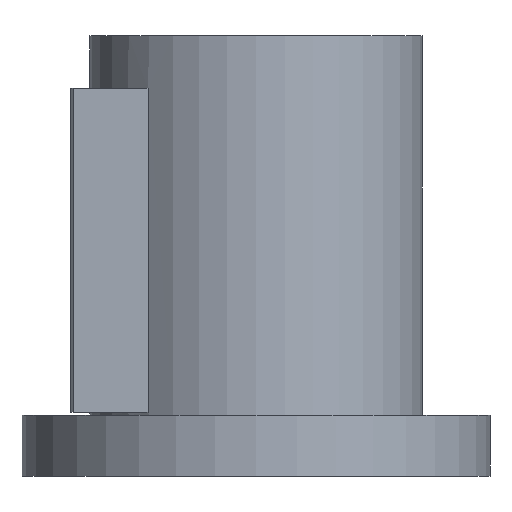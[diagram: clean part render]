
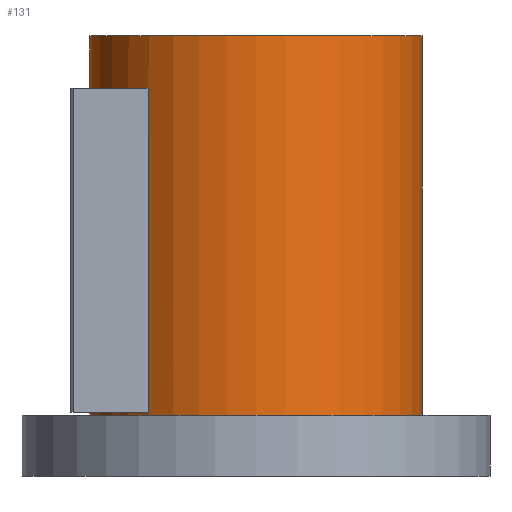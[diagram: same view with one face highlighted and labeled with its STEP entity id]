
A CAD part, front view. The second image highlights one B-rep face of the part: STEP entity #131.
In plain terms, the highlighted cylindrical face has radius 60 mm (diameter 120 mm), a full revolution.
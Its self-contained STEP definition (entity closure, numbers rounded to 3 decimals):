
#131=ADVANCED_FACE('',(#218,#219,#220),#161,.T.);
#161=CYLINDRICAL_SURFACE('',#550,60.);
#174=LINE('',#752,#196);
#175=LINE('',#756,#197);
#196=VECTOR('',#612,1.);
#197=VECTOR('',#615,1.);
#218=FACE_BOUND('',#263,.T.);
#219=FACE_BOUND('',#264,.T.);
#220=FACE_BOUND('',#265,.T.);
#263=EDGE_LOOP('',(#325));
#264=EDGE_LOOP('',(#326));
#265=EDGE_LOOP('',(#327,#328,#329,#330));
#325=ORIENTED_EDGE('',*,*,#467,.F.);
#326=ORIENTED_EDGE('',*,*,#468,.T.);
#327=ORIENTED_EDGE('',*,*,#469,.F.);
#328=ORIENTED_EDGE('',*,*,#470,.F.);
#329=ORIENTED_EDGE('',*,*,#471,.T.);
#330=ORIENTED_EDGE('',*,*,#472,.F.);
#425=VERTEX_POINT('',#746);
#426=VERTEX_POINT('',#748);
#427=VERTEX_POINT('',#750);
#428=VERTEX_POINT('',#751);
#429=VERTEX_POINT('',#753);
#430=VERTEX_POINT('',#755);
#467=EDGE_CURVE('',#425,#425,#517,.T.);
#468=EDGE_CURVE('',#426,#426,#518,.T.);
#469=EDGE_CURVE('',#427,#428,#519,.T.);
#470=EDGE_CURVE('',#429,#427,#174,.T.);
#471=EDGE_CURVE('',#429,#430,#520,.T.);
#472=EDGE_CURVE('',#428,#430,#175,.T.);
#517=CIRCLE('',#546,60.);
#518=CIRCLE('',#547,60.);
#519=CIRCLE('',#548,60.);
#520=CIRCLE('',#549,60.);
#546=AXIS2_PLACEMENT_3D('',#745,#606,#607);
#547=AXIS2_PLACEMENT_3D('',#747,#608,#609);
#548=AXIS2_PLACEMENT_3D('',#749,#610,#611);
#549=AXIS2_PLACEMENT_3D('',#754,#613,#614);
#550=AXIS2_PLACEMENT_3D('',#757,#616,#617);
#606=DIRECTION('',(0.,0.,1.));
#607=DIRECTION('',(1.,0.,0.));
#608=DIRECTION('',(0.,0.,1.));
#609=DIRECTION('',(1.,0.,0.));
#610=DIRECTION('',(0.,0.,-1.));
#611=DIRECTION('',(-1.,0.,0.));
#612=DIRECTION('',(0.,0.,1.));
#613=DIRECTION('',(0.,0.,-1.));
#614=DIRECTION('',(-1.,0.,0.));
#615=DIRECTION('',(0.,0.,-1.));
#616=DIRECTION('',(0.,0.,-1.));
#617=DIRECTION('',(-1.,0.,0.));
#745=CARTESIAN_POINT('',(0.,0.,159.));
#746=CARTESIAN_POINT('',(60.,0.,159.));
#747=CARTESIAN_POINT('',(0.,0.,22.));
#748=CARTESIAN_POINT('',(60.,0.,22.));
#749=CARTESIAN_POINT('',(0.,0.,140.));
#750=CARTESIAN_POINT('',(-39.,-45.596,140.));
#751=CARTESIAN_POINT('',(-39.,45.596,140.));
#752=CARTESIAN_POINT('',(-39.,-45.596,159.));
#753=CARTESIAN_POINT('',(-39.,-45.596,23.));
#754=CARTESIAN_POINT('',(0.,0.,23.));
#755=CARTESIAN_POINT('',(-39.,45.596,23.));
#756=CARTESIAN_POINT('',(-39.,45.596,159.));
#757=CARTESIAN_POINT('',(0.,0.,159.));
